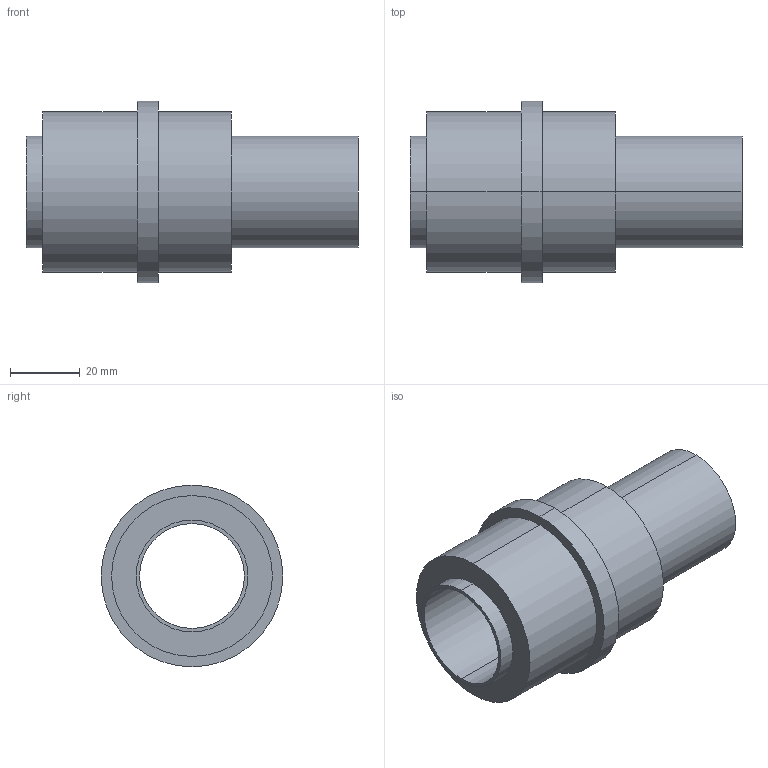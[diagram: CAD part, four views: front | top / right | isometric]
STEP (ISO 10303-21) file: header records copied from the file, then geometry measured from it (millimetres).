
FILE_DESCRIPTION (( 'STEP AP214' ), '1' );
FILE_NAME ('BR12-30x95.STEP', '2020-06-22T11:02:01', ( '' ), ( '' ), 'SwSTEP 2.0', 'SolidWorks 2018', '' );
FILE_SCHEMA (( 'AUTOMOTIVE_DESIGN' ));
Length unit declared in the file: millimetre
Products named in the file (1): BR12-30x95
Bounding box: 95 x 52 x 52 mm (x, y, z)
Volume: 58336.2 mm3; surface area: 23825.8 mm2
Topology: 1 solids, 1 shells, 18 faces, 36 edges, 24 vertices
Faces by surface type: cylinder 12, plane 6
Entity records: 522 total; most frequent: DIRECTION 98, CARTESIAN_POINT 79, ORIENTED_EDGE 72, AXIS2_PLACEMENT_3D 43, EDGE_CURVE 36, VERTEX_POINT 24, CIRCLE 24, EDGE_LOOP 24
